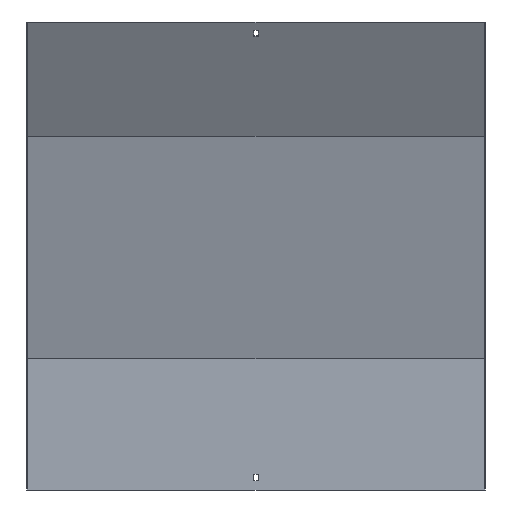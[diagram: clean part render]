
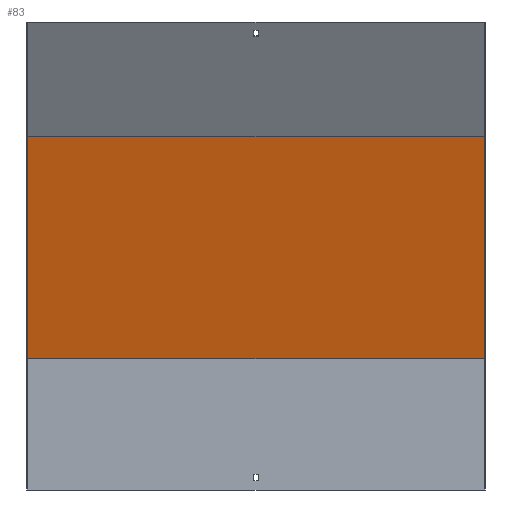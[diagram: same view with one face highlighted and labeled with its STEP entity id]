
A CAD part, front view. The second image highlights one B-rep face of the part: STEP entity #83.
In plain terms, the highlighted planar face has unit normal (0, -0.966, -0.259).
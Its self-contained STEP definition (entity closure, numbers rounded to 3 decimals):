
#38 = ORIENTED_EDGE ( 'NONE', *, *, #801, .T. ) ;
#42 = EDGE_CURVE ( 'NONE', #786, #583, #280, .T. ) ;
#59 = EDGE_CURVE ( 'NONE', #834, #635, #736, .T. ) ;
#82 = CARTESIAN_POINT ( 'NONE',  ( 301.5, 17.87, 174.788 ) ) ;
#83 = ADVANCED_FACE ( 'NONE', ( #91 ), #565, .T. ) ;
#90 = CARTESIAN_POINT ( 'NONE',  ( 300., -59.889, 464.987 ) ) ;
#91 = FACE_OUTER_BOUND ( 'NONE', #576, .T. ) ;
#103 = LINE ( 'NONE', #366, #391 ) ;
#138 = DIRECTION ( 'NONE',  ( 0., -0.259, 0.966 ) ) ;
#255 = ORIENTED_EDGE ( 'NONE', *, *, #42, .T. ) ;
#259 = VECTOR ( 'NONE', #138, 1000. ) ;
#280 = LINE ( 'NONE', #401, #259 ) ;
#347 = DIRECTION ( 'NONE',  ( 0., -0.966, -0.259 ) ) ;
#366 = CARTESIAN_POINT ( 'NONE',  ( 301.5, 18.5, 172.436 ) ) ;
#391 = VECTOR ( 'NONE', #567, 1000. ) ;
#401 = CARTESIAN_POINT ( 'NONE',  ( 300., 60.37, 16.176 ) ) ;
#423 = LINE ( 'NONE', #830, #477 ) ;
#473 = EDGE_CURVE ( 'NONE', #786, #834, #103, .T. ) ;
#477 = VECTOR ( 'NONE', #563, 1000. ) ;
#499 = CARTESIAN_POINT ( 'NONE',  ( -300., 18.5, 172.436 ) ) ;
#547 = CARTESIAN_POINT ( 'NONE',  ( 300., 18.5, 172.436 ) ) ;
#563 = DIRECTION ( 'NONE',  ( -1., 0., 0. ) ) ;
#565 = PLANE ( 'NONE',  #668 ) ;
#567 = DIRECTION ( 'NONE',  ( -1., 0., 0. ) ) ;
#576 = EDGE_LOOP ( 'NONE', ( #638, #649, #255, #38 ) ) ;
#583 = VERTEX_POINT ( 'NONE', #90 ) ;
#593 = CARTESIAN_POINT ( 'NONE',  ( -300., 60.37, 16.176 ) ) ;
#635 = VERTEX_POINT ( 'NONE', #809 ) ;
#638 = ORIENTED_EDGE ( 'NONE', *, *, #59, .F. ) ;
#649 = ORIENTED_EDGE ( 'NONE', *, *, #473, .F. ) ;
#668 = AXIS2_PLACEMENT_3D ( 'NONE', #82, #347, #810 ) ;
#680 = VECTOR ( 'NONE', #851, 1000. ) ;
#736 = LINE ( 'NONE', #593, #680 ) ;
#786 = VERTEX_POINT ( 'NONE', #547 ) ;
#801 = EDGE_CURVE ( 'NONE', #583, #635, #423, .T. ) ;
#809 = CARTESIAN_POINT ( 'NONE',  ( -300., -59.889, 464.987 ) ) ;
#810 = DIRECTION ( 'NONE',  ( 0., 0.259, -0.966 ) ) ;
#830 = CARTESIAN_POINT ( 'NONE',  ( 301.5, -59.889, 464.987 ) ) ;
#834 = VERTEX_POINT ( 'NONE', #499 ) ;
#851 = DIRECTION ( 'NONE',  ( 0., -0.259, 0.966 ) ) ;
